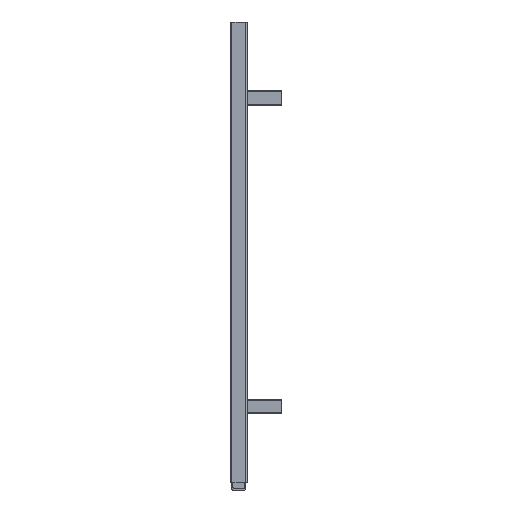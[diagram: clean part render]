
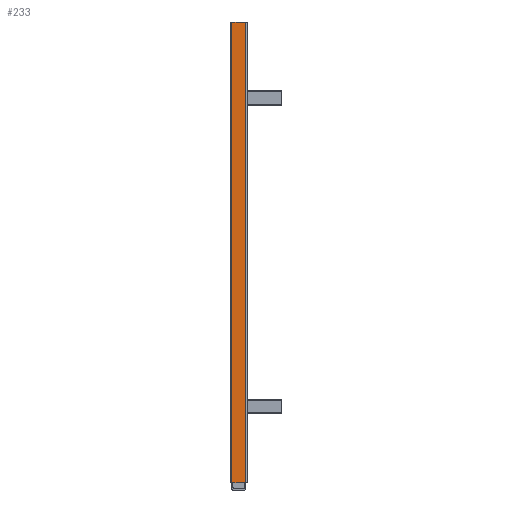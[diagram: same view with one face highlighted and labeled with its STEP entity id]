
A CAD part, front view. The second image highlights one B-rep face of the part: STEP entity #233.
In plain terms, the highlighted planar face has unit normal (0, -1, 0) as drawn and (0, 1, 0) by its records, which use the part's own axes.
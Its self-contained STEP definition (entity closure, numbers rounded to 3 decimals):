
#233 = ADVANCED_FACE( '', ( #514 ), #515, .F. );
#514 = FACE_OUTER_BOUND( '', #847, .T. );
#515 = PLANE( '', #848 );
#847 = EDGE_LOOP( '', ( #1458, #1459, #1460, #1461 ) );
#848 = AXIS2_PLACEMENT_3D( '', #1462, #1463, #1464 );
#1458 = ORIENTED_EDGE( '', *, *, #2046, .F. );
#1459 = ORIENTED_EDGE( '', *, *, #1829, .T. );
#1460 = ORIENTED_EDGE( '', *, *, #2047, .T. );
#1461 = ORIENTED_EDGE( '', *, *, #2048, .T. );
#1462 = CARTESIAN_POINT( '', ( 15., 15., 800. ) );
#1463 = DIRECTION( '', ( 0., -1., 0. ) );
#1464 = DIRECTION( '', ( 1., 0., 0. ) );
#1829 = EDGE_CURVE( '', #2133, #2137, #2139, .T. );
#2046 = EDGE_CURVE( '', #2133, #2484, #2485, .T. );
#2047 = EDGE_CURVE( '', #2137, #2486, #2487, .T. );
#2048 = EDGE_CURVE( '', #2486, #2484, #2488, .F. );
#2133 = VERTEX_POINT( '', #2583 );
#2137 = VERTEX_POINT( '', #2588 );
#2139 = LINE( '', #2590, #2591 );
#2484 = VERTEX_POINT( '', #3093 );
#2485 = LINE( '', #3094, #3095 );
#2486 = VERTEX_POINT( '', #3096 );
#2487 = LINE( '', #3097, #3098 );
#2488 = LINE( '', #3099, #3100 );
#2583 = CARTESIAN_POINT( '', ( 12., 15., 800. ) );
#2588 = CARTESIAN_POINT( '', ( 12., 15., 0. ) );
#2590 = CARTESIAN_POINT( '', ( 12., 15., 800. ) );
#2591 = VECTOR( '', #3230, 1000. );
#3093 = CARTESIAN_POINT( '', ( -12., 15., 800. ) );
#3094 = CARTESIAN_POINT( '', ( 15., 15., 800. ) );
#3095 = VECTOR( '', #3427, 1000. );
#3096 = CARTESIAN_POINT( '', ( -12., 15., 0. ) );
#3097 = CARTESIAN_POINT( '', ( 15., 15., 0. ) );
#3098 = VECTOR( '', #3428, 1000. );
#3099 = CARTESIAN_POINT( '', ( -12., 15., 800. ) );
#3100 = VECTOR( '', #3429, 1000. );
#3230 = DIRECTION( '', ( 0., 0., -1. ) );
#3427 = DIRECTION( '', ( -1., 0., 0. ) );
#3428 = DIRECTION( '', ( -1., 0., 0. ) );
#3429 = DIRECTION( '', ( 0., 0., -1. ) );
